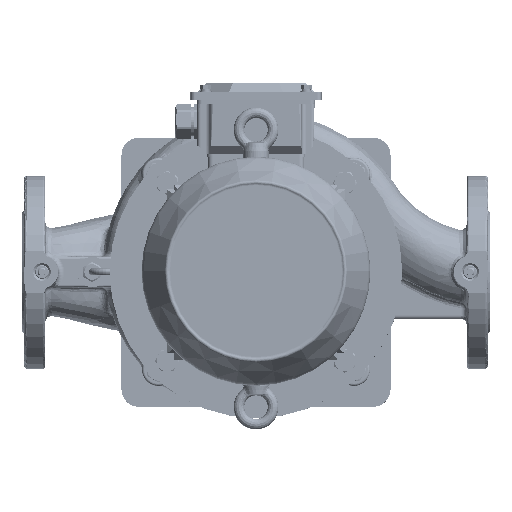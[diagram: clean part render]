
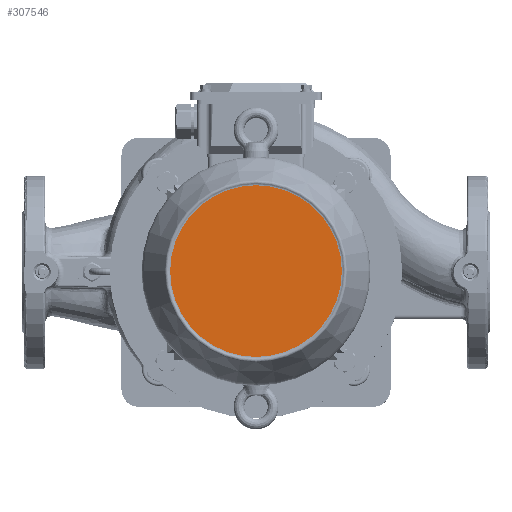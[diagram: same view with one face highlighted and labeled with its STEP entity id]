
A CAD part, top view. The second image highlights one B-rep face of the part: STEP entity #307546.
In plain terms, the highlighted planar face has unit normal (0, 0, 1) as drawn and (0, 1, 0) by its records, which use the part's own axes.
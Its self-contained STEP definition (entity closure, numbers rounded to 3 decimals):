
#278496=CARTESIAN_POINT('',(0.,62.61,
0.));
#278497=DIRECTION('',(0.,-1.,0.));
#278498=DIRECTION('',(0.,0.,1.));
#278499=AXIS2_PLACEMENT_3D('',#278496,#278497,#278498);
#278501=CARTESIAN_POINT('',(0.,62.61,
0.));
#278502=DIRECTION('',(0.,-1.,0.));
#278503=DIRECTION('',(0.,0.,-1.));
#278504=AXIS2_PLACEMENT_3D('',#278501,#278502,#278503);
#282947=CARTESIAN_POINT('',(0.,62.61,
-73.366));
#282948=VERTEX_POINT('',#282947);
#282949=CARTESIAN_POINT('',(0.,62.61,
73.366));
#282950=VERTEX_POINT('',#282949);
#307537=CARTESIAN_POINT('',(0.,62.61,
0.));
#307538=DIRECTION('',(0.,1.,0.));
#307539=DIRECTION('',(0.,0.,-1.));
#307540=AXIS2_PLACEMENT_3D('',#307537,#307538,#307539);
#307541=PLANE('',#307540);
#307542=ORIENTED_EDGE('',*,*,#307530,.T.);
#307543=ORIENTED_EDGE('',*,*,#307516,.T.);
#307544=EDGE_LOOP('',(#307542,#307543));
#307545=FACE_OUTER_BOUND('',#307544,.F.);
#307546=ADVANCED_FACE('',(#307545),#307541,.T.);
#278500=CIRCLE('',#278499,73.366);
#278505=CIRCLE('',#278504,73.366);
#307516=EDGE_CURVE('',#282948,#282950,#278505,.T.);
#307530=EDGE_CURVE('',#282950,#282948,#278500,.T.);
